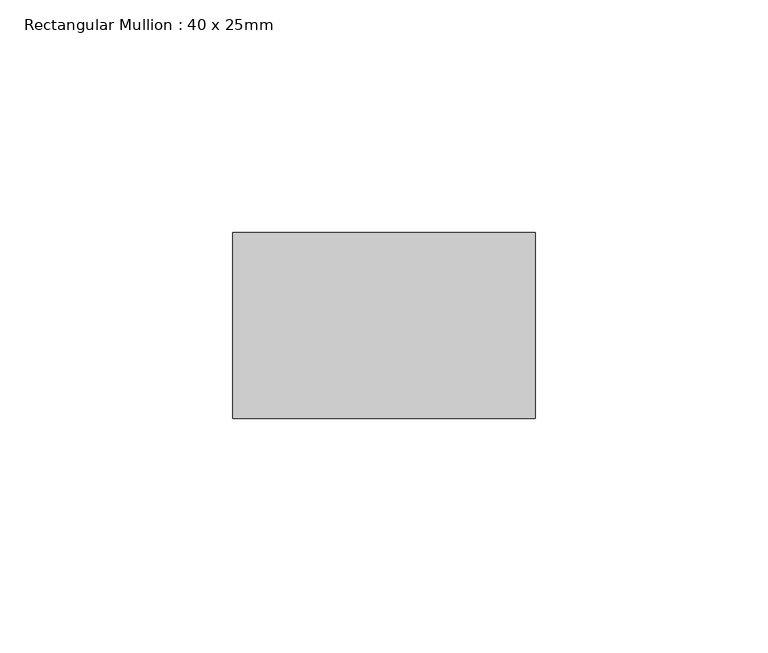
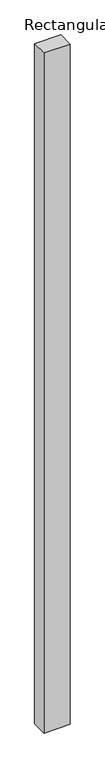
"""IFC4 building model written with IfcOpenShell, lengths in millimetres: member geometry, Rectangular Mullion : 40 x 25mm."""

from ifc_helpers import new_model, si_unit, frame, origin, place, context, project, spatial, polyline, outline, extrude, source, transform, mapped, element, save


def rectangular_mullion_40_x_25mm_04777cf4(model_context):
    return source(origin(), model_context, "Body", "SweptSolid", [
        extrude(outline(polyline([(0.0, -20.0), (0.0, -60.0), (-65.0, -60.0), (-65.0, -20.0), (0.0, -20.0)])), frame((0.0, 0.0, -1787.6940999), z_axis=(0.0, 0.0, 1.0), x_axis=(1.0, 0.0, 0.0)), (0.0, 0.0, 1.0), 1787.6940999),
    ])


if __name__ == "__main__":
    model = new_model("IFC4")
    model_context = context("Model", 3, world=origin())
    ifc_project = project(units=[si_unit("LENGTHUNIT", "METRE", prefix="MILLI")], contexts=[model_context])
    site = spatial("IfcSite", under=ifc_project)
    building = spatial("IfcBuilding", under=site)
    placement = place(None, origin())
    rectangular_mullion_40_x_25mm_shape = rectangular_mullion_40_x_25mm_04777cf4(model_context)
    element("IfcMember", 1, ObjectType="Rectangular Mullion : 40 x 25mm", at=placement, inside=building, context=model_context, shape_type="MappedRepresentation", body=[
        mapped(rectangular_mullion_40_x_25mm_shape, transform((0.0, 0.0, 0.0), x_axis=(1.0, 0.0, 0.0), y_axis=(0.0, 1.0, 0.0), z_axis=(0.0, 0.0, 1.0))),
    ])
    save(model, "model.ifc")
